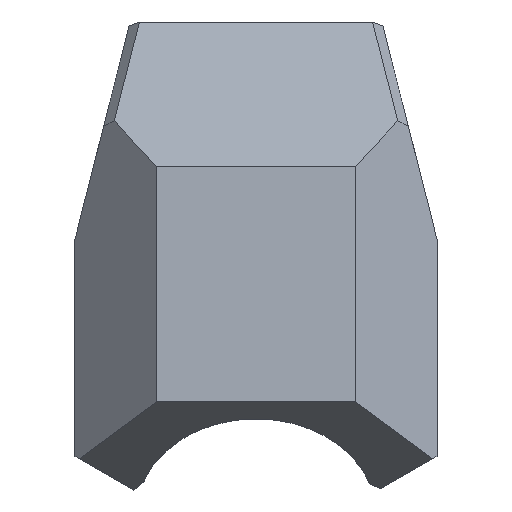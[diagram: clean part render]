
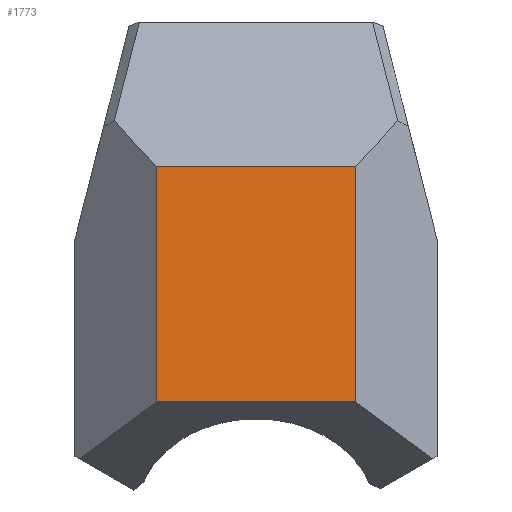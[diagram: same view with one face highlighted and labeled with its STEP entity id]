
A CAD part, top view. The second image highlights one B-rep face of the part: STEP entity #1773.
In plain terms, the highlighted planar face has unit normal (0, 0.077, 0.997).
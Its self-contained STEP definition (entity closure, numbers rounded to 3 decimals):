
#2 = CARTESIAN_POINT ( 'NONE',  ( -5.5, -16., 15. ) ) ;
#29 = FACE_OUTER_BOUND ( 'NONE', #1679, .T. ) ;
#48 = EDGE_CURVE ( 'NONE', #1077, #1446, #702, .T. ) ;
#59 = AXIS2_PLACEMENT_3D ( 'NONE', #193, #1360, #1169 ) ;
#89 = DIRECTION ( 'NONE',  ( -1., 0., 0. ) ) ;
#140 = VECTOR ( 'NONE', #2081, 1000. ) ;
#151 = EDGE_CURVE ( 'NONE', #2251, #1707, #2448, .T. ) ;
#177 = PLANE ( 'NONE',  #59 ) ;
#193 = CARTESIAN_POINT ( 'NONE',  ( 10., -16., 15. ) ) ;
#356 = DIRECTION ( 'NONE',  ( -1., 0., 0. ) ) ;
#592 = LINE ( 'NONE', #2141, #1303 ) ;
#702 = LINE ( 'NONE', #1990, #859 ) ;
#779 = CARTESIAN_POINT ( 'NONE',  ( 5.5, -16., 15. ) ) ;
#859 = VECTOR ( 'NONE', #89, 1000. ) ;
#861 = CARTESIAN_POINT ( 'NONE',  ( -5.5, -3., 14. ) ) ;
#1019 = ORIENTED_EDGE ( 'NONE', *, *, #151, .F. ) ;
#1077 = VERTEX_POINT ( 'NONE', #2132 ) ;
#1169 = DIRECTION ( 'NONE',  ( 0., 0.997, -0.077 ) ) ;
#1265 = ORIENTED_EDGE ( 'NONE', *, *, #48, .T. ) ;
#1303 = VECTOR ( 'NONE', #2310, 1000. ) ;
#1360 = DIRECTION ( 'NONE',  ( 0., -0.077, -0.997 ) ) ;
#1446 = VERTEX_POINT ( 'NONE', #861 ) ;
#1610 = VECTOR ( 'NONE', #356, 1000. ) ;
#1679 = EDGE_LOOP ( 'NONE', ( #1019, #2417, #1265, #1712 ) ) ;
#1707 = VERTEX_POINT ( 'NONE', #2220 ) ;
#1708 = LINE ( 'NONE', #2, #140 ) ;
#1712 = ORIENTED_EDGE ( 'NONE', *, *, #1818, .T. ) ;
#1773 = ADVANCED_FACE ( 'NONE', ( #29 ), #177, .F. ) ;
#1818 = EDGE_CURVE ( 'NONE', #1446, #1707, #1708, .T. ) ;
#1990 = CARTESIAN_POINT ( 'NONE',  ( 10., -3., 14. ) ) ;
#2081 = DIRECTION ( 'NONE',  ( 0., -0.997, 0.077 ) ) ;
#2132 = CARTESIAN_POINT ( 'NONE',  ( 5.5, -3., 14. ) ) ;
#2141 = CARTESIAN_POINT ( 'NONE',  ( 5.5, -7., 14.308 ) ) ;
#2195 = EDGE_CURVE ( 'NONE', #2251, #1077, #592, .T. ) ;
#2220 = CARTESIAN_POINT ( 'NONE',  ( -5.5, -16., 15. ) ) ;
#2222 = CARTESIAN_POINT ( 'NONE',  ( 10., -16., 15. ) ) ;
#2251 = VERTEX_POINT ( 'NONE', #779 ) ;
#2310 = DIRECTION ( 'NONE',  ( 0., 0.997, -0.077 ) ) ;
#2417 = ORIENTED_EDGE ( 'NONE', *, *, #2195, .T. ) ;
#2448 = LINE ( 'NONE', #2222, #1610 ) ;
